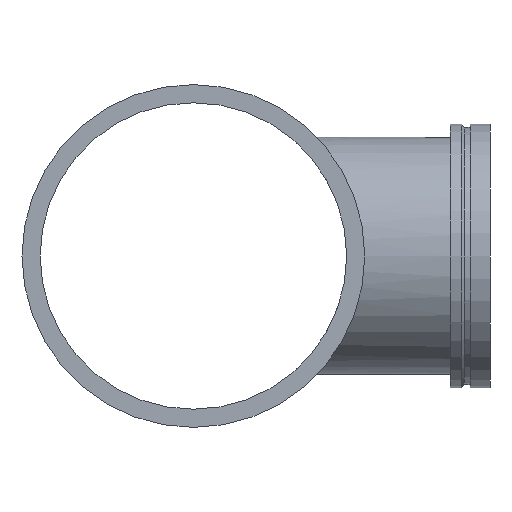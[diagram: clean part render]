
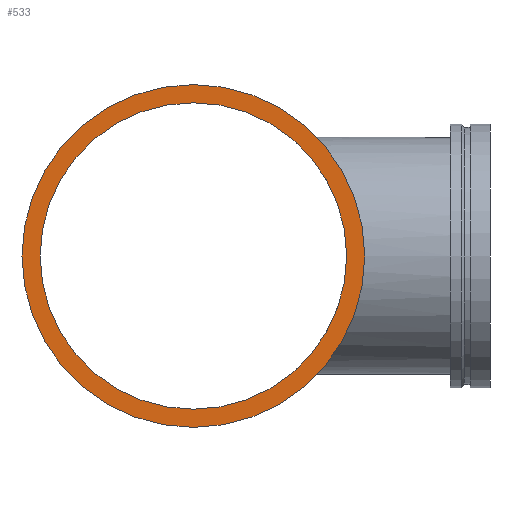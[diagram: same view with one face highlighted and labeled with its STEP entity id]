
A CAD part, left-side view. The second image highlights one B-rep face of the part: STEP entity #533.
In plain terms, the highlighted planar face has unit normal (-1, 0, 0).
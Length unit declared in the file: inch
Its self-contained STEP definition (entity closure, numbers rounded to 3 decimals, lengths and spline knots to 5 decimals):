
#58=FACE_BOUND('',#128,.T.);
#67=PLANE('',#626);
#92=FACE_OUTER_BOUND('',#127,.T.);
#127=EDGE_LOOP('',(#465,#466));
#128=EDGE_LOOP('',(#467,#468));
#151=CIRCLE('',#587,13.);
#152=CIRCLE('',#588,13.);
#175=CIRCLE('',#624,11.625);
#176=CIRCLE('',#625,11.625);
#239=VERTEX_POINT('',#1113);
#240=VERTEX_POINT('',#1115);
#263=VERTEX_POINT('',#1182);
#264=VERTEX_POINT('',#1184);
#299=EDGE_CURVE('',#239,#240,#151,.T.);
#300=EDGE_CURVE('',#240,#239,#152,.T.);
#331=EDGE_CURVE('',#264,#263,#175,.T.);
#332=EDGE_CURVE('',#263,#264,#176,.T.);
#465=ORIENTED_EDGE('',*,*,#300,.F.);
#466=ORIENTED_EDGE('',*,*,#299,.F.);
#467=ORIENTED_EDGE('',*,*,#331,.T.);
#468=ORIENTED_EDGE('',*,*,#332,.T.);
#533=ADVANCED_FACE('',(#92,#58),#67,.T.);
#587=AXIS2_PLACEMENT_3D('',#1116,#716,#717);
#588=AXIS2_PLACEMENT_3D('',#1117,#718,#719);
#624=AXIS2_PLACEMENT_3D('',#1185,#798,#799);
#625=AXIS2_PLACEMENT_3D('',#1186,#800,#801);
#626=AXIS2_PLACEMENT_3D('',#1187,#802,#803);
#716=DIRECTION('center_axis',(1.,0.,0.));
#717=DIRECTION('ref_axis',(0.,0.,1.));
#718=DIRECTION('center_axis',(1.,0.,0.));
#719=DIRECTION('ref_axis',(0.,0.,1.));
#798=DIRECTION('center_axis',(1.,0.,0.));
#799=DIRECTION('ref_axis',(0.,0.,1.));
#800=DIRECTION('center_axis',(1.,0.,0.));
#801=DIRECTION('ref_axis',(0.,0.,1.));
#802=DIRECTION('center_axis',(-1.,0.,0.));
#803=DIRECTION('ref_axis',(0.,0.,-1.));
#1113=CARTESIAN_POINT('',(-23.,13.,0.));
#1115=CARTESIAN_POINT('',(-23.,-13.,0.));
#1116=CARTESIAN_POINT('Origin',(-23.,0.,0.));
#1117=CARTESIAN_POINT('Origin',(-23.,0.,0.));
#1182=CARTESIAN_POINT('',(-23.,11.625,0.));
#1184=CARTESIAN_POINT('',(-23.,-11.625,0.));
#1185=CARTESIAN_POINT('Origin',(-23.,0.,0.));
#1186=CARTESIAN_POINT('Origin',(-23.,0.,0.));
#1187=CARTESIAN_POINT('Origin',(-23.,-13.,0.));
